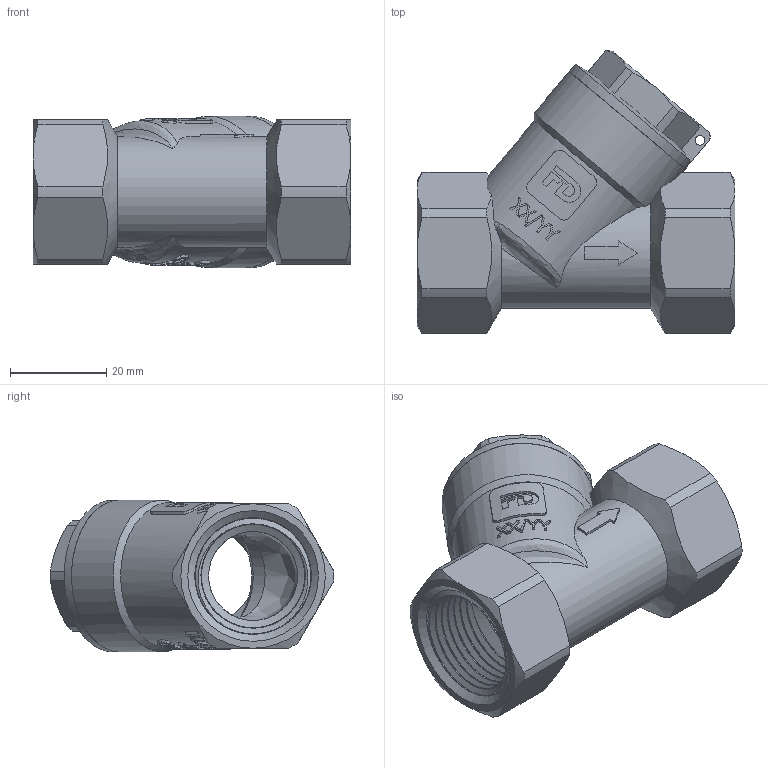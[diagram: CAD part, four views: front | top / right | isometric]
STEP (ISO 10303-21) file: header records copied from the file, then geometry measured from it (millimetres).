
FILE_DESCRIPTION(/* description */ (''),/* implementation_level */ '2;1');
FILE_NAME(/* name */ 'C:\Users\Doom\Desktop\Фадотех\2\F2 11.08.2021\F2 11.08.2021.stp',/* time_stamp */ '2021-12-14T20:58:13+02:00',/* author */ ('Doom'),/* organization */ (''),/* preprocessor_version */ 'ST-DEVELOPER v18',/* originating_system */ 'Autodesk Inventor 2020',/* authorisation */ '');
FILE_SCHEMA (('AUTOMOTIVE_DESIGN { 1 0 10303 214 3 1 1 }'));
Length unit declared in the file: millimetre
Products named in the file (3): F2 11.08.2021; 20-01533-G20-0620-4210; 20-01533-G20-5720
Assembly tree (2 placements, depth 2):
  F2 11.08.2021
    20-01533-G20-0620-4210
    20-01533-G20-5720
Bounding box: 66 x 58.85 x 31.5 mm (x, y, z)
Volume: 28768.6 mm3; surface area: 27316.9 mm2
Topology: 6 solids, 6 shells, 473 faces, 1304 edges, 869 vertices
Faces by surface type: plane 218, bspline 125, cylinder 95, cone 33, torus 2
Full cylindrical faces by diameter (mm): 2 x1, 18.5 x2, 19.5 x1, 21.1 x1, 21.486 x14, 21.5 x1, 22.211 x3, 23.068 x1, 23.71 x2, 24.176 x4, 24.901 x2, 26.4 x3, 27.091 x1, 31.5 x2
Entity records: 30543 total; most frequent: CARTESIAN_POINT 19158, ORIENTED_EDGE 2584, DIRECTION 2075, EDGE_CURVE 1292, VERTEX_POINT 863, AXIS2_PLACEMENT_3D 841, EDGE_LOOP 519, FACE_OUTER_BOUND 473
